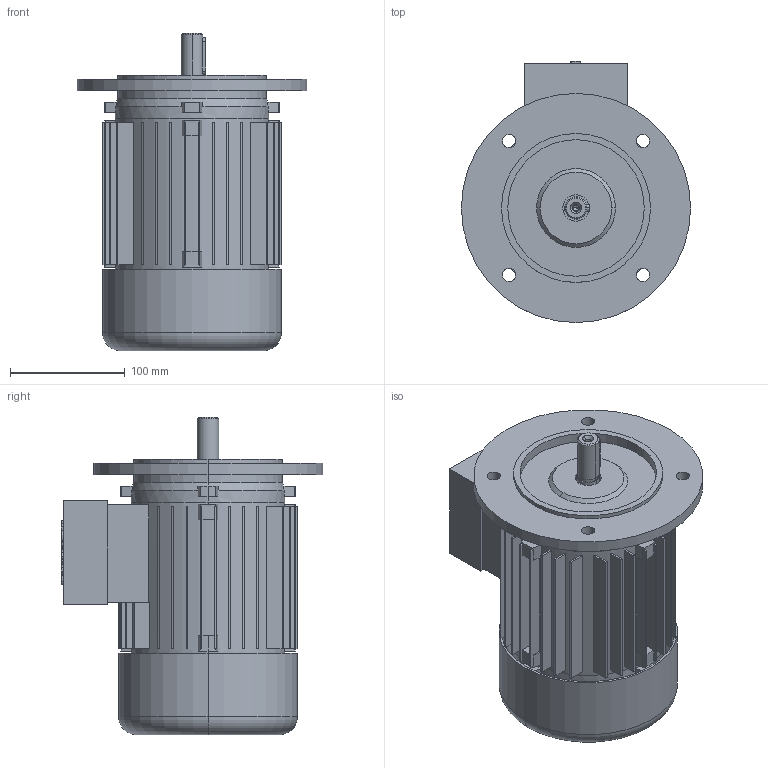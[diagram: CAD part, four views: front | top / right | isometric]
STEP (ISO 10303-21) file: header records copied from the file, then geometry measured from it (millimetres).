
FILE_DESCRIPTION (( 'STEP AP214' ), '1' );
FILE_NAME ('20.18270-B 5AZ 80 B5 STANDK.STEP', '2018-07-10T08:08:46', ( '' ), ( '' ), 'SwSTEP 2.0', 'SolidWorks 2018', '' );
FILE_SCHEMA (( 'AUTOMOTIVE_DESIGN' ));
Length unit declared in the file: millimetre
Products named in the file (1): 20.18270-B 5AZ 80 B5 STANDK
Bounding box: 200 x 228 x 277 mm (x, y, z)
Volume: 1601292.9 mm3; surface area: 512701.2 mm2
Topology: 9 solids, 9 shells, 503 faces, 1260 edges, 829 vertices
Faces by surface type: plane 312, cylinder 152, cone 26, bspline 9, torus 4
Entity records: 15319 total; most frequent: CARTESIAN_POINT 2819, DIRECTION 2656, ORIENTED_EDGE 2516, EDGE_CURVE 1258, AXIS2_PLACEMENT_3D 940, VERTEX_POINT 829, LINE 776, VECTOR 776
